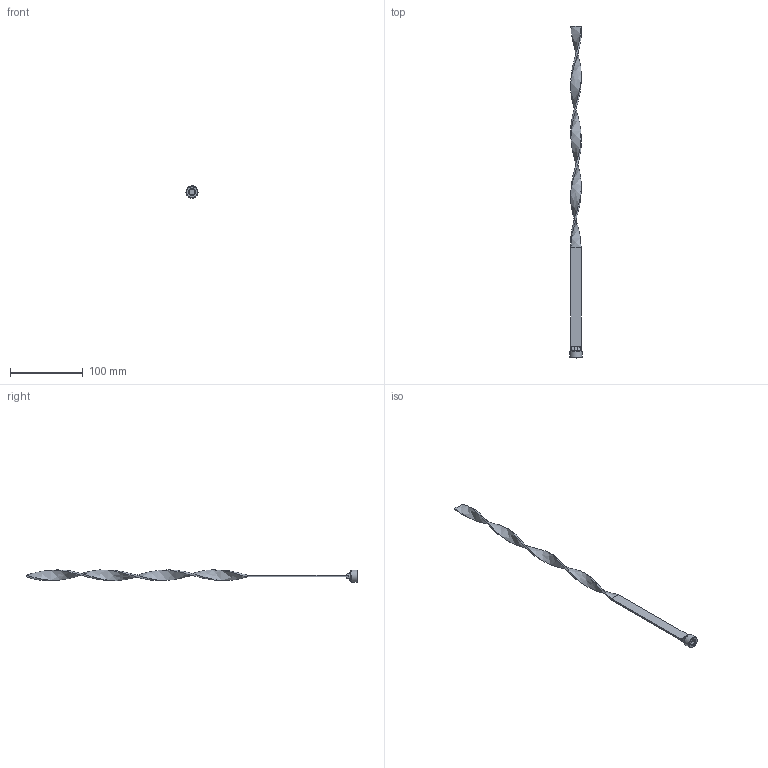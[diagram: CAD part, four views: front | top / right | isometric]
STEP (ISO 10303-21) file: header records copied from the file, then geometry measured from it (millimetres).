
FILE_DESCRIPTION(/* description */ (''),/* implementation_level */ '2;1');
FILE_NAME(/* name */ 'C:/Users/drich/Desktop/TB38X18BSP v1.step',/* time_stamp */ '2020-01-14T09:26:20-06:00',/* author */ (''),/* organization */ (''),/* preprocessor_version */ 'ST-DEVELOPER v18',/* originating_system */ 'Autodesk Translation Framework v8.12.0.6',/* authorisation */ '');
FILE_SCHEMA (('AUTOMOTIVE_DESIGN { 1 0 10303 214 3 1 1 }'));
Length unit declared in the file: inch
Products named in the file (1): TB38X18BSP
Bounding box: 16.54 x 457.2 x 16.86 mm (x, y, z)
Volume: 17093 mm3; surface area: 15985.3 mm2
Topology: 2 solids, 2 shells, 57 faces, 141 edges, 90 vertices
Faces by surface type: plane 26, bspline 12, cylinder 8, torus 8, cone 3
Full cylindrical faces by diameter (mm): 7.874 x1, 16.537 x1
Entity records: 2696 total; most frequent: CARTESIAN_POINT 1413, ORIENTED_EDGE 282, DIRECTION 219, EDGE_CURVE 141, VERTEX_POINT 90, AXIS2_PLACEMENT_3D 84, EDGE_LOOP 59, FACE_OUTER_BOUND 57
